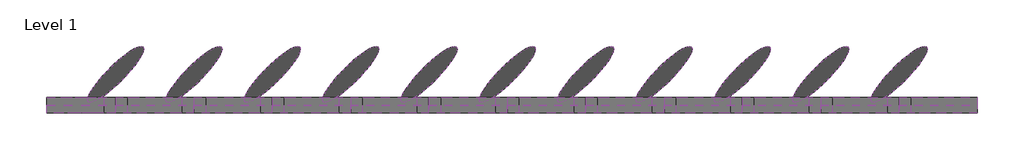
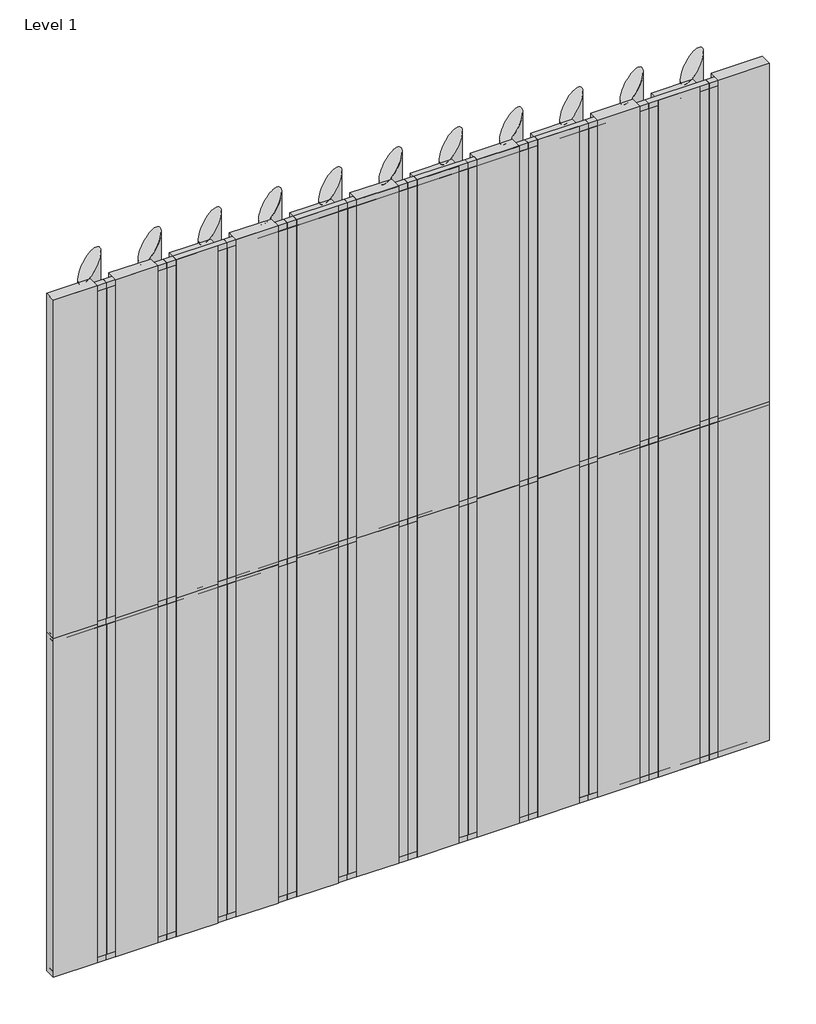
# One storey: 58 members, 48 plates.
"""IFC4 building model written with IfcOpenShell, lengths in millimetres."""

from ifc_helpers import new_model, si_unit, origin, place, context, project, spatial, transform, mapped, element, save
from components import rectangular_mullion_b4513789, rectangular_mullion_4d54ce13, rectangular_mullion_fc1c4b0a, rectangular_mullion_a2429558, rectangular_mullion_4e96f492, rectangular_mullion_058744f8, rectangular_mullion_f7ae43f3, empty_system_panel_empty_92263b80, empty_system_panel_empty_88756bee, empty_system_panel_empty_f5e541b1, empty_system_panel_empty_f6668541, empty_system_panel_empty_c7db59ba

model = new_model("IFC4")

# Units and contexts
model_context = context("Model", 3, world=origin())
ifc_project = project(units=[si_unit("LENGTHUNIT", "METRE", prefix="MILLI")], contexts=[model_context])

# Site, building, storey
site = spatial("IfcSite", under=ifc_project)
building = spatial("IfcBuilding", under=site)
storey = spatial("IfcBuildingStorey", under=building, Name="Level 1", Elevation=0.0)

# Members
placement = place(None, origin())
rectangular_mullion_shape = rectangular_mullion_b4513789(model_context)
element("IfcMember", 1, ObjectType="Rectangular Mullion : RSen_21_CWM_blade - wing 500 - 45° perforated_gen_duco projects", at=placement, inside=storey, context=model_context, shape_type="MappedRepresentation", body=[
    mapped(rectangular_mullion_shape, transform((5495.0, 3000.0, 0.0), x_axis=(-1.0, 0.0, 0.0), y_axis=(0.0, 1.0, 0.0), z_axis=(0.0, 0.0, -1.0))),
])
element("IfcMember", 2, ObjectType="Rectangular Mullion : RSen_21_CWM_blade - wing 500 - 45° perforated_gen_duco projects", at=placement, inside=storey, context=model_context, shape_type="MappedRepresentation", body=[
    mapped(rectangular_mullion_shape, transform((4990.0, 3000.0, 0.0), x_axis=(-1.0, 0.0, 0.0), y_axis=(0.0, 1.0, 0.0), z_axis=(0.0, 0.0, -1.0))),
])
element("IfcMember", 3, ObjectType="Rectangular Mullion : RSen_21_CWM_blade - wing 500 - 45° perforated_gen_duco projects", at=placement, inside=storey, context=model_context, shape_type="MappedRepresentation", body=[
    mapped(rectangular_mullion_shape, transform((4485.0, 3000.0, 0.0), x_axis=(-1.0, 0.0, 0.0), y_axis=(0.0, 1.0, 0.0), z_axis=(0.0, 0.0, -1.0))),
])
element("IfcMember", 4, ObjectType="Rectangular Mullion : RSen_21_CWM_blade - wing 500 - 45° perforated_gen_duco projects", at=placement, inside=storey, context=model_context, shape_type="MappedRepresentation", body=[
    mapped(rectangular_mullion_shape, transform((3980.0, 3000.0, 0.0), x_axis=(-1.0, 0.0, 0.0), y_axis=(0.0, 1.0, 0.0), z_axis=(0.0, 0.0, -1.0))),
])
element("IfcMember", 5, ObjectType="Rectangular Mullion : RSen_21_CWM_blade - wing 500 - 45° perforated_gen_duco projects", at=placement, inside=storey, context=model_context, shape_type="MappedRepresentation", body=[
    mapped(rectangular_mullion_shape, transform((3475.0, 3000.0, 0.0), x_axis=(-1.0, 0.0, 0.0), y_axis=(0.0, 1.0, 0.0), z_axis=(0.0, 0.0, -1.0))),
])
element("IfcMember", 6, ObjectType="Rectangular Mullion : RSen_21_CWM_blade - wing 500 - 45° perforated_gen_duco projects", at=placement, inside=storey, context=model_context, shape_type="MappedRepresentation", body=[
    mapped(rectangular_mullion_shape, transform((2970.0, 3000.0, 0.0), x_axis=(-1.0, 0.0, 0.0), y_axis=(0.0, 1.0, 0.0), z_axis=(0.0, 0.0, -1.0))),
])
element("IfcMember", 7, ObjectType="Rectangular Mullion : RSen_21_CWM_blade - wing 500 - 45° perforated_gen_duco projects", at=placement, inside=storey, context=model_context, shape_type="MappedRepresentation", body=[
    mapped(rectangular_mullion_shape, transform((2465.0, 3000.0, 0.0), x_axis=(-1.0, 0.0, 0.0), y_axis=(0.0, 1.0, 0.0), z_axis=(0.0, 0.0, -1.0))),
])
element("IfcMember", 8, ObjectType="Rectangular Mullion : RSen_21_CWM_blade - wing 500 - 45° perforated_gen_duco projects", at=placement, inside=storey, context=model_context, shape_type="MappedRepresentation", body=[
    mapped(rectangular_mullion_shape, transform((1960.0, 3000.0, 0.0), x_axis=(-1.0, 0.0, 0.0), y_axis=(0.0, 1.0, 0.0), z_axis=(0.0, 0.0, -1.0))),
])
element("IfcMember", 9, ObjectType="Rectangular Mullion : RSen_21_CWM_blade - wing 500 - 45° perforated_gen_duco projects", at=placement, inside=storey, context=model_context, shape_type="MappedRepresentation", body=[
    mapped(rectangular_mullion_shape, transform((1455.0, 3000.0, 0.0), x_axis=(-1.0, 0.0, 0.0), y_axis=(0.0, 1.0, 0.0), z_axis=(0.0, 0.0, -1.0))),
])
element("IfcMember", 10, ObjectType="Rectangular Mullion : RSen_21_CWM_blade - wing 500 - 45° perforated_gen_duco projects", at=placement, inside=storey, context=model_context, shape_type="MappedRepresentation", body=[
    mapped(rectangular_mullion_shape, transform((950.0, 3000.0, 0.0), x_axis=(-1.0, 0.0, 0.0), y_axis=(0.0, 1.0, 0.0), z_axis=(0.0, 0.0, -1.0))),
])
element("IfcMember", 11, ObjectType="Rectangular Mullion : RSen_21_CWM_blade - wing 500 - 45° perforated_gen_duco projects", at=placement, inside=storey, context=model_context, shape_type="MappedRepresentation", body=[
    mapped(rectangular_mullion_shape, transform((445.0, 3000.0, 0.0), x_axis=(-1.0, 0.0, 0.0), y_axis=(0.0, 1.0, 0.0), z_axis=(0.0, 0.0, -1.0))),
])
element("IfcMember", 12, ObjectType="Rectangular Mullion : RSen_21_CWM_blade - wing 500 - 45° perforated_gen_duco projects", at=placement, inside=storey, context=model_context, shape_type="MappedRepresentation", body=[
    mapped(rectangular_mullion_shape, transform((5495.0, 3000.0, 3000.0), x_axis=(-1.0, 0.0, 0.0), y_axis=(0.0, 1.0, 0.0), z_axis=(0.0, 0.0, -1.0))),
])
element("IfcMember", 13, ObjectType="Rectangular Mullion : RSen_21_CWM_blade - wing 500 - 45° perforated_gen_duco projects", at=placement, inside=storey, context=model_context, shape_type="MappedRepresentation", body=[
    mapped(rectangular_mullion_shape, transform((4990.0, 3000.0, 3000.0), x_axis=(-1.0, 0.0, 0.0), y_axis=(0.0, 1.0, 0.0), z_axis=(0.0, 0.0, -1.0))),
])
element("IfcMember", 14, ObjectType="Rectangular Mullion : RSen_21_CWM_blade - wing 500 - 45° perforated_gen_duco projects", at=placement, inside=storey, context=model_context, shape_type="MappedRepresentation", body=[
    mapped(rectangular_mullion_shape, transform((4485.0, 3000.0, 3000.0), x_axis=(-1.0, 0.0, 0.0), y_axis=(0.0, 1.0, 0.0), z_axis=(0.0, 0.0, -1.0))),
])
element("IfcMember", 15, ObjectType="Rectangular Mullion : RSen_21_CWM_blade - wing 500 - 45° perforated_gen_duco projects", at=placement, inside=storey, context=model_context, shape_type="MappedRepresentation", body=[
    mapped(rectangular_mullion_shape, transform((3980.0, 3000.0, 3000.0), x_axis=(-1.0, 0.0, 0.0), y_axis=(0.0, 1.0, 0.0), z_axis=(0.0, 0.0, -1.0))),
])
element("IfcMember", 16, ObjectType="Rectangular Mullion : RSen_21_CWM_blade - wing 500 - 45° perforated_gen_duco projects", at=placement, inside=storey, context=model_context, shape_type="MappedRepresentation", body=[
    mapped(rectangular_mullion_shape, transform((3475.0, 3000.0, 3000.0), x_axis=(-1.0, 0.0, 0.0), y_axis=(0.0, 1.0, 0.0), z_axis=(0.0, 0.0, -1.0))),
])
element("IfcMember", 17, ObjectType="Rectangular Mullion : RSen_21_CWM_blade - wing 500 - 45° perforated_gen_duco projects", at=placement, inside=storey, context=model_context, shape_type="MappedRepresentation", body=[
    mapped(rectangular_mullion_shape, transform((2970.0, 3000.0, 3000.0), x_axis=(-1.0, 0.0, 0.0), y_axis=(0.0, 1.0, 0.0), z_axis=(0.0, 0.0, -1.0))),
])
element("IfcMember", 18, ObjectType="Rectangular Mullion : RSen_21_CWM_blade - wing 500 - 45° perforated_gen_duco projects", at=placement, inside=storey, context=model_context, shape_type="MappedRepresentation", body=[
    mapped(rectangular_mullion_shape, transform((2465.0, 3000.0, 3000.0), x_axis=(-1.0, 0.0, 0.0), y_axis=(0.0, 1.0, 0.0), z_axis=(0.0, 0.0, -1.0))),
])
element("IfcMember", 19, ObjectType="Rectangular Mullion : RSen_21_CWM_blade - wing 500 - 45° perforated_gen_duco projects", at=placement, inside=storey, context=model_context, shape_type="MappedRepresentation", body=[
    mapped(rectangular_mullion_shape, transform((1960.0, 3000.0, 3000.0), x_axis=(-1.0, 0.0, 0.0), y_axis=(0.0, 1.0, 0.0), z_axis=(0.0, 0.0, -1.0))),
])
element("IfcMember", 20, ObjectType="Rectangular Mullion : RSen_21_CWM_blade - wing 500 - 45° perforated_gen_duco projects", at=placement, inside=storey, context=model_context, shape_type="MappedRepresentation", body=[
    mapped(rectangular_mullion_shape, transform((1455.0, 3000.0, 3000.0), x_axis=(-1.0, 0.0, 0.0), y_axis=(0.0, 1.0, 0.0), z_axis=(0.0, 0.0, -1.0))),
])
element("IfcMember", 21, ObjectType="Rectangular Mullion : RSen_21_CWM_blade - wing 500 - 45° perforated_gen_duco projects", at=placement, inside=storey, context=model_context, shape_type="MappedRepresentation", body=[
    mapped(rectangular_mullion_shape, transform((950.0, 3000.0, 3000.0), x_axis=(-1.0, 0.0, 0.0), y_axis=(0.0, 1.0, 0.0), z_axis=(0.0, 0.0, -1.0))),
])
element("IfcMember", 22, ObjectType="Rectangular Mullion : RSen_21_CWM_blade - wing 500 - 45° perforated_gen_duco projects", at=placement, inside=storey, context=model_context, shape_type="MappedRepresentation", body=[
    mapped(rectangular_mullion_shape, transform((445.0, 3000.0, 3000.0), x_axis=(-1.0, 0.0, 0.0), y_axis=(0.0, 1.0, 0.0), z_axis=(0.0, 0.0, -1.0))),
])
rectangular_mullion_2_shape = rectangular_mullion_4d54ce13(model_context)
element("IfcMember", 23, ObjectType="Rectangular Mullion : RSen_21_CWM_support profile 50x50 - left_gen_duco projects", at=placement, inside=storey, context=model_context, shape_type="MappedRepresentation", body=[
    mapped(rectangular_mullion_2_shape, transform((0.0, 3000.0, 6000.0), x_axis=(0.0, 0.0, 1.0), y_axis=(0.0, 1.0, 0.0), z_axis=(-1.0, 0.0, 0.0))),
])
rectangular_mullion_3_shape = rectangular_mullion_fc1c4b0a(model_context)
element("IfcMember", 24, ObjectType="Rectangular Mullion : RSen_21_CWM_support profile 50x50 - right_gen_duco projects", at=placement, inside=storey, context=model_context, shape_type="MappedRepresentation", body=[
    mapped(rectangular_mullion_3_shape, transform((6000.0, 3000.0, 0.0), x_axis=(0.0, 0.0, -1.0), y_axis=(0.0, 1.0, 0.0), z_axis=(1.0, 0.0, 0.0))),
])
rectangular_mullion_4_shape = rectangular_mullion_a2429558(model_context)
element("IfcMember", 25, ObjectType="Rectangular Mullion : RSen_21_CWM_support profile 50x50 - left_gen_duco projects", at=placement, inside=storey, context=model_context, shape_type="MappedRepresentation", body=[
    mapped(rectangular_mullion_4_shape, transform((5495.0, 3000.0, 6000.0), x_axis=(0.0, 0.0, 1.0), y_axis=(0.0, 1.0, 0.0), z_axis=(-1.0, 0.0, 0.0))),
])
element("IfcMember", 26, ObjectType="Rectangular Mullion : RSen_21_CWM_support profile 50x50 - left_gen_duco projects", at=placement, inside=storey, context=model_context, shape_type="MappedRepresentation", body=[
    mapped(rectangular_mullion_4_shape, transform((4990.0, 3000.0, 6000.0), x_axis=(0.0, 0.0, 1.0), y_axis=(0.0, 1.0, 0.0), z_axis=(-1.0, 0.0, 0.0))),
])
element("IfcMember", 27, ObjectType="Rectangular Mullion : RSen_21_CWM_support profile 50x50 - left_gen_duco projects", at=placement, inside=storey, context=model_context, shape_type="MappedRepresentation", body=[
    mapped(rectangular_mullion_4_shape, transform((4485.0, 3000.0, 6000.0), x_axis=(0.0, 0.0, 1.0), y_axis=(0.0, 1.0, 0.0), z_axis=(-1.0, 0.0, 0.0))),
])
element("IfcMember", 28, ObjectType="Rectangular Mullion : RSen_21_CWM_support profile 50x50 - left_gen_duco projects", at=placement, inside=storey, context=model_context, shape_type="MappedRepresentation", body=[
    mapped(rectangular_mullion_4_shape, transform((3980.0, 3000.0, 6000.0), x_axis=(0.0, 0.0, 1.0), y_axis=(0.0, 1.0, 0.0), z_axis=(-1.0, 0.0, 0.0))),
])
element("IfcMember", 29, ObjectType="Rectangular Mullion : RSen_21_CWM_support profile 50x50 - left_gen_duco projects", at=placement, inside=storey, context=model_context, shape_type="MappedRepresentation", body=[
    mapped(rectangular_mullion_4_shape, transform((3475.0, 3000.0, 6000.0), x_axis=(0.0, 0.0, 1.0), y_axis=(0.0, 1.0, 0.0), z_axis=(-1.0, 0.0, 0.0))),
])
element("IfcMember", 30, ObjectType="Rectangular Mullion : RSen_21_CWM_support profile 50x50 - left_gen_duco projects", at=placement, inside=storey, context=model_context, shape_type="MappedRepresentation", body=[
    mapped(rectangular_mullion_4_shape, transform((2970.0, 3000.0, 6000.0), x_axis=(0.0, 0.0, 1.0), y_axis=(0.0, 1.0, 0.0), z_axis=(-1.0, 0.0, 0.0))),
])
element("IfcMember", 31, ObjectType="Rectangular Mullion : RSen_21_CWM_support profile 50x50 - left_gen_duco projects", at=placement, inside=storey, context=model_context, shape_type="MappedRepresentation", body=[
    mapped(rectangular_mullion_4_shape, transform((2465.0, 3000.0, 6000.0), x_axis=(0.0, 0.0, 1.0), y_axis=(0.0, 1.0, 0.0), z_axis=(-1.0, 0.0, 0.0))),
])
element("IfcMember", 32, ObjectType="Rectangular Mullion : RSen_21_CWM_support profile 50x50 - left_gen_duco projects", at=placement, inside=storey, context=model_context, shape_type="MappedRepresentation", body=[
    mapped(rectangular_mullion_4_shape, transform((1960.0, 3000.0, 6000.0), x_axis=(0.0, 0.0, 1.0), y_axis=(0.0, 1.0, 0.0), z_axis=(-1.0, 0.0, 0.0))),
])
element("IfcMember", 33, ObjectType="Rectangular Mullion : RSen_21_CWM_support profile 50x50 - left_gen_duco projects", at=placement, inside=storey, context=model_context, shape_type="MappedRepresentation", body=[
    mapped(rectangular_mullion_4_shape, transform((1455.0, 3000.0, 6000.0), x_axis=(0.0, 0.0, 1.0), y_axis=(0.0, 1.0, 0.0), z_axis=(-1.0, 0.0, 0.0))),
])
element("IfcMember", 34, ObjectType="Rectangular Mullion : RSen_21_CWM_support profile 50x50 - left_gen_duco projects", at=placement, inside=storey, context=model_context, shape_type="MappedRepresentation", body=[
    mapped(rectangular_mullion_4_shape, transform((950.0, 3000.0, 6000.0), x_axis=(0.0, 0.0, 1.0), y_axis=(0.0, 1.0, 0.0), z_axis=(-1.0, 0.0, 0.0))),
])
element("IfcMember", 35, ObjectType="Rectangular Mullion : RSen_21_CWM_support profile 50x50 - left_gen_duco projects", at=placement, inside=storey, context=model_context, shape_type="MappedRepresentation", body=[
    mapped(rectangular_mullion_4_shape, transform((445.0, 3000.0, 6000.0), x_axis=(0.0, 0.0, 1.0), y_axis=(0.0, 1.0, 0.0), z_axis=(-1.0, 0.0, 0.0))),
])
element("IfcMember", 36, ObjectType="Rectangular Mullion : RSen_21_CWM_support profile 50x50 - right_gen_duco projects", at=placement, inside=storey, context=model_context, shape_type="MappedRepresentation", body=[
    mapped(rectangular_mullion_3_shape, transform((5495.0, 3000.0, 0.0), x_axis=(0.0, 0.0, -1.0), y_axis=(0.0, 1.0, 0.0), z_axis=(1.0, 0.0, 0.0))),
])
element("IfcMember", 37, ObjectType="Rectangular Mullion : RSen_21_CWM_support profile 50x50 - right_gen_duco projects", at=placement, inside=storey, context=model_context, shape_type="MappedRepresentation", body=[
    mapped(rectangular_mullion_3_shape, transform((4990.0, 3000.0, 0.0), x_axis=(0.0, 0.0, -1.0), y_axis=(0.0, 1.0, 0.0), z_axis=(1.0, 0.0, 0.0))),
])
element("IfcMember", 38, ObjectType="Rectangular Mullion : RSen_21_CWM_support profile 50x50 - right_gen_duco projects", at=placement, inside=storey, context=model_context, shape_type="MappedRepresentation", body=[
    mapped(rectangular_mullion_3_shape, transform((4485.0, 3000.0, 0.0), x_axis=(0.0, 0.0, -1.0), y_axis=(0.0, 1.0, 0.0), z_axis=(1.0, 0.0, 0.0))),
])
element("IfcMember", 39, ObjectType="Rectangular Mullion : RSen_21_CWM_support profile 50x50 - right_gen_duco projects", at=placement, inside=storey, context=model_context, shape_type="MappedRepresentation", body=[
    mapped(rectangular_mullion_3_shape, transform((3980.0, 3000.0, 0.0), x_axis=(0.0, 0.0, -1.0), y_axis=(0.0, 1.0, 0.0), z_axis=(1.0, 0.0, 0.0))),
])
element("IfcMember", 40, ObjectType="Rectangular Mullion : RSen_21_CWM_support profile 50x50 - right_gen_duco projects", at=placement, inside=storey, context=model_context, shape_type="MappedRepresentation", body=[
    mapped(rectangular_mullion_3_shape, transform((3475.0, 3000.0, 0.0), x_axis=(0.0, 0.0, -1.0), y_axis=(0.0, 1.0, 0.0), z_axis=(1.0, 0.0, 0.0))),
])
element("IfcMember", 41, ObjectType="Rectangular Mullion : RSen_21_CWM_support profile 50x50 - right_gen_duco projects", at=placement, inside=storey, context=model_context, shape_type="MappedRepresentation", body=[
    mapped(rectangular_mullion_3_shape, transform((2970.0, 3000.0, 0.0), x_axis=(0.0, 0.0, -1.0), y_axis=(0.0, 1.0, 0.0), z_axis=(1.0, 0.0, 0.0))),
])
element("IfcMember", 42, ObjectType="Rectangular Mullion : RSen_21_CWM_support profile 50x50 - right_gen_duco projects", at=placement, inside=storey, context=model_context, shape_type="MappedRepresentation", body=[
    mapped(rectangular_mullion_3_shape, transform((2465.0, 3000.0, 0.0), x_axis=(0.0, 0.0, -1.0), y_axis=(0.0, 1.0, 0.0), z_axis=(1.0, 0.0, 0.0))),
])
element("IfcMember", 43, ObjectType="Rectangular Mullion : RSen_21_CWM_support profile 50x50 - right_gen_duco projects", at=placement, inside=storey, context=model_context, shape_type="MappedRepresentation", body=[
    mapped(rectangular_mullion_3_shape, transform((1960.0, 3000.0, 0.0), x_axis=(0.0, 0.0, -1.0), y_axis=(0.0, 1.0, 0.0), z_axis=(1.0, 0.0, 0.0))),
])
element("IfcMember", 44, ObjectType="Rectangular Mullion : RSen_21_CWM_support profile 50x50 - right_gen_duco projects", at=placement, inside=storey, context=model_context, shape_type="MappedRepresentation", body=[
    mapped(rectangular_mullion_3_shape, transform((1455.0, 3000.0, 0.0), x_axis=(0.0, 0.0, -1.0), y_axis=(0.0, 1.0, 0.0), z_axis=(1.0, 0.0, 0.0))),
])
element("IfcMember", 45, ObjectType="Rectangular Mullion : RSen_21_CWM_support profile 50x50 - right_gen_duco projects", at=placement, inside=storey, context=model_context, shape_type="MappedRepresentation", body=[
    mapped(rectangular_mullion_3_shape, transform((950.0, 3000.0, 0.0), x_axis=(0.0, 0.0, -1.0), y_axis=(0.0, 1.0, 0.0), z_axis=(1.0, 0.0, 0.0))),
])
rectangular_mullion_5_shape = rectangular_mullion_4e96f492(model_context)
element("IfcMember", 46, ObjectType="Rectangular Mullion : RSen_21_CWM_support profile 50x50 - right_gen_duco projects", at=placement, inside=storey, context=model_context, shape_type="MappedRepresentation", body=[
    mapped(rectangular_mullion_5_shape, transform((445.0, 3000.0, 0.0), x_axis=(0.0, 0.0, -1.0), y_axis=(0.0, 1.0, 0.0), z_axis=(1.0, 0.0, 0.0))),
])
rectangular_mullion_6_shape = rectangular_mullion_058744f8(model_context)
element("IfcMember", 47, ObjectType="Rectangular Mullion : RSen_21_CWM_support profile 50x50_gen_duco projects", at=placement, inside=storey, context=model_context, shape_type="MappedRepresentation", body=[
    mapped(rectangular_mullion_6_shape, transform((5495.0, 3000.0, 3000.0), x_axis=(0.0, 0.0, 1.0), y_axis=(0.0, 1.0, 0.0), z_axis=(-1.0, 0.0, 0.0))),
])
element("IfcMember", 48, ObjectType="Rectangular Mullion : RSen_21_CWM_support profile 50x50_gen_duco projects", at=placement, inside=storey, context=model_context, shape_type="MappedRepresentation", body=[
    mapped(rectangular_mullion_6_shape, transform((4990.0, 3000.0, 3000.0), x_axis=(0.0, 0.0, 1.0), y_axis=(0.0, 1.0, 0.0), z_axis=(-1.0, 0.0, 0.0))),
])
element("IfcMember", 49, ObjectType="Rectangular Mullion : RSen_21_CWM_support profile 50x50_gen_duco projects", at=placement, inside=storey, context=model_context, shape_type="MappedRepresentation", body=[
    mapped(rectangular_mullion_6_shape, transform((4485.0, 3000.0, 3000.0), x_axis=(0.0, 0.0, 1.0), y_axis=(0.0, 1.0, 0.0), z_axis=(-1.0, 0.0, 0.0))),
])
element("IfcMember", 50, ObjectType="Rectangular Mullion : RSen_21_CWM_support profile 50x50_gen_duco projects", at=placement, inside=storey, context=model_context, shape_type="MappedRepresentation", body=[
    mapped(rectangular_mullion_6_shape, transform((3980.0, 3000.0, 3000.0), x_axis=(0.0, 0.0, 1.0), y_axis=(0.0, 1.0, 0.0), z_axis=(-1.0, 0.0, 0.0))),
])
element("IfcMember", 51, ObjectType="Rectangular Mullion : RSen_21_CWM_support profile 50x50_gen_duco projects", at=placement, inside=storey, context=model_context, shape_type="MappedRepresentation", body=[
    mapped(rectangular_mullion_6_shape, transform((3475.0, 3000.0, 3000.0), x_axis=(0.0, 0.0, 1.0), y_axis=(0.0, 1.0, 0.0), z_axis=(-1.0, 0.0, 0.0))),
])
element("IfcMember", 52, ObjectType="Rectangular Mullion : RSen_21_CWM_support profile 50x50_gen_duco projects", at=placement, inside=storey, context=model_context, shape_type="MappedRepresentation", body=[
    mapped(rectangular_mullion_6_shape, transform((2970.0, 3000.0, 3000.0), x_axis=(0.0, 0.0, 1.0), y_axis=(0.0, 1.0, 0.0), z_axis=(-1.0, 0.0, 0.0))),
])
element("IfcMember", 53, ObjectType="Rectangular Mullion : RSen_21_CWM_support profile 50x50_gen_duco projects", at=placement, inside=storey, context=model_context, shape_type="MappedRepresentation", body=[
    mapped(rectangular_mullion_6_shape, transform((2465.0, 3000.0, 3000.0), x_axis=(0.0, 0.0, 1.0), y_axis=(0.0, 1.0, 0.0), z_axis=(-1.0, 0.0, 0.0))),
])
element("IfcMember", 54, ObjectType="Rectangular Mullion : RSen_21_CWM_support profile 50x50_gen_duco projects", at=placement, inside=storey, context=model_context, shape_type="MappedRepresentation", body=[
    mapped(rectangular_mullion_6_shape, transform((1960.0, 3000.0, 3000.0), x_axis=(0.0, 0.0, 1.0), y_axis=(0.0, 1.0, 0.0), z_axis=(-1.0, 0.0, 0.0))),
])
element("IfcMember", 55, ObjectType="Rectangular Mullion : RSen_21_CWM_support profile 50x50_gen_duco projects", at=placement, inside=storey, context=model_context, shape_type="MappedRepresentation", body=[
    mapped(rectangular_mullion_6_shape, transform((1455.0, 3000.0, 3000.0), x_axis=(0.0, 0.0, 1.0), y_axis=(0.0, 1.0, 0.0), z_axis=(-1.0, 0.0, 0.0))),
])
element("IfcMember", 56, ObjectType="Rectangular Mullion : RSen_21_CWM_support profile 50x50_gen_duco projects", at=placement, inside=storey, context=model_context, shape_type="MappedRepresentation", body=[
    mapped(rectangular_mullion_6_shape, transform((950.0, 3000.0, 3000.0), x_axis=(0.0, 0.0, 1.0), y_axis=(0.0, 1.0, 0.0), z_axis=(-1.0, 0.0, 0.0))),
])
element("IfcMember", 57, ObjectType="Rectangular Mullion : RSen_21_CWM_support profile 50x50_gen_duco projects", at=placement, inside=storey, context=model_context, shape_type="MappedRepresentation", body=[
    mapped(rectangular_mullion_6_shape, transform((445.0, 3000.0, 3000.0), x_axis=(0.0, 0.0, 1.0), y_axis=(0.0, 1.0, 0.0), z_axis=(-1.0, 0.0, 0.0))),
])
rectangular_mullion_7_shape = rectangular_mullion_f7ae43f3(model_context)
element("IfcMember", 58, ObjectType="Rectangular Mullion : RSen_21_CWM_support profile 50x50_gen_duco projects", at=placement, inside=storey, context=model_context, shape_type="MappedRepresentation", body=[
    mapped(rectangular_mullion_7_shape, transform((0.0, 3000.0, 3000.0), x_axis=(0.0, 0.0, 1.0), y_axis=(0.0, 1.0, 0.0), z_axis=(-1.0, 0.0, 0.0))),
])

# Plates
empty_system_panel_empty_shape = empty_system_panel_empty_92263b80(model_context)
element("IfcPlate", 59, ObjectType="Empty System Panel : Empty", at=placement, inside=storey, context=model_context, shape_type="MappedRepresentation", body=[
    mapped(empty_system_panel_empty_shape, transform((5786.390873, 3000.0, 0.0), x_axis=(-1.0, 0.0, 0.0), y_axis=(0.0, -1.0, 0.0), z_axis=(0.0, 0.0, 1.0))),
])
element("IfcPlate", 60, ObjectType="Empty System Panel : Empty", at=placement, inside=storey, context=model_context, shape_type="MappedRepresentation", body=[
    mapped(empty_system_panel_empty_shape, transform((5786.390873, 3000.0, 3000.0), x_axis=(-1.0, 0.0, 0.0), y_axis=(0.0, -1.0, 0.0), z_axis=(0.0, 0.0, 1.0))),
])
empty_system_panel_empty_2_shape = empty_system_panel_empty_88756bee(model_context)
element("IfcPlate", 61, ObjectType="Empty System Panel : Empty", at=placement, inside=storey, context=model_context, shape_type="MappedRepresentation", body=[
    mapped(empty_system_panel_empty_2_shape, transform((5242.5, 3000.0, 0.0), x_axis=(-1.0, 0.0, 0.0), y_axis=(0.0, -1.0, 0.0), z_axis=(0.0, 0.0, 1.0))),
])
element("IfcPlate", 62, ObjectType="Empty System Panel : Empty", at=placement, inside=storey, context=model_context, shape_type="MappedRepresentation", body=[
    mapped(empty_system_panel_empty_2_shape, transform((4737.5, 3000.0, 0.0), x_axis=(-1.0, 0.0, 0.0), y_axis=(0.0, -1.0, 0.0), z_axis=(0.0, 0.0, 1.0))),
])
element("IfcPlate", 63, ObjectType="Empty System Panel : Empty", at=placement, inside=storey, context=model_context, shape_type="MappedRepresentation", body=[
    mapped(empty_system_panel_empty_2_shape, transform((4232.5, 3000.0, 0.0), x_axis=(-1.0, 0.0, 0.0), y_axis=(0.0, -1.0, 0.0), z_axis=(0.0, 0.0, 1.0))),
])
element("IfcPlate", 64, ObjectType="Empty System Panel : Empty", at=placement, inside=storey, context=model_context, shape_type="MappedRepresentation", body=[
    mapped(empty_system_panel_empty_2_shape, transform((3727.5, 3000.0, 0.0), x_axis=(-1.0, 0.0, 0.0), y_axis=(0.0, -1.0, 0.0), z_axis=(0.0, 0.0, 1.0))),
])
element("IfcPlate", 65, ObjectType="Empty System Panel : Empty", at=placement, inside=storey, context=model_context, shape_type="MappedRepresentation", body=[
    mapped(empty_system_panel_empty_2_shape, transform((3222.5, 3000.0, 0.0), x_axis=(-1.0, 0.0, 0.0), y_axis=(0.0, -1.0, 0.0), z_axis=(0.0, 0.0, 1.0))),
])
element("IfcPlate", 66, ObjectType="Empty System Panel : Empty", at=placement, inside=storey, context=model_context, shape_type="MappedRepresentation", body=[
    mapped(empty_system_panel_empty_2_shape, transform((2717.5, 3000.0, 0.0), x_axis=(-1.0, 0.0, 0.0), y_axis=(0.0, -1.0, 0.0), z_axis=(0.0, 0.0, 1.0))),
])
element("IfcPlate", 67, ObjectType="Empty System Panel : Empty", at=placement, inside=storey, context=model_context, shape_type="MappedRepresentation", body=[
    mapped(empty_system_panel_empty_2_shape, transform((2212.5, 3000.0, 0.0), x_axis=(-1.0, 0.0, 0.0), y_axis=(0.0, -1.0, 0.0), z_axis=(0.0, 0.0, 1.0))),
])
element("IfcPlate", 68, ObjectType="Empty System Panel : Empty", at=placement, inside=storey, context=model_context, shape_type="MappedRepresentation", body=[
    mapped(empty_system_panel_empty_2_shape, transform((1707.5, 3000.0, 0.0), x_axis=(-1.0, 0.0, 0.0), y_axis=(0.0, -1.0, 0.0), z_axis=(0.0, 0.0, 1.0))),
])
element("IfcPlate", 69, ObjectType="Empty System Panel : Empty", at=placement, inside=storey, context=model_context, shape_type="MappedRepresentation", body=[
    mapped(empty_system_panel_empty_2_shape, transform((1202.5, 3000.0, 0.0), x_axis=(-1.0, 0.0, 0.0), y_axis=(0.0, -1.0, 0.0), z_axis=(0.0, 0.0, 1.0))),
])
element("IfcPlate", 70, ObjectType="Empty System Panel : Empty", at=placement, inside=storey, context=model_context, shape_type="MappedRepresentation", body=[
    mapped(empty_system_panel_empty_2_shape, transform((697.5, 3000.0, 0.0), x_axis=(-1.0, 0.0, 0.0), y_axis=(0.0, -1.0, 0.0), z_axis=(0.0, 0.0, 1.0))),
])
element("IfcPlate", 71, ObjectType="Empty System Panel : Empty", at=placement, inside=storey, context=model_context, shape_type="MappedRepresentation", body=[
    mapped(empty_system_panel_empty_2_shape, transform((5242.5, 3000.0, 3000.0), x_axis=(-1.0, 0.0, 0.0), y_axis=(0.0, -1.0, 0.0), z_axis=(0.0, 0.0, 1.0))),
])
element("IfcPlate", 72, ObjectType="Empty System Panel : Empty", at=placement, inside=storey, context=model_context, shape_type="MappedRepresentation", body=[
    mapped(empty_system_panel_empty_2_shape, transform((4737.5, 3000.0, 3000.0), x_axis=(-1.0, 0.0, 0.0), y_axis=(0.0, -1.0, 0.0), z_axis=(0.0, 0.0, 1.0))),
])
element("IfcPlate", 73, ObjectType="Empty System Panel : Empty", at=placement, inside=storey, context=model_context, shape_type="MappedRepresentation", body=[
    mapped(empty_system_panel_empty_2_shape, transform((4232.5, 3000.0, 3000.0), x_axis=(-1.0, 0.0, 0.0), y_axis=(0.0, -1.0, 0.0), z_axis=(0.0, 0.0, 1.0))),
])
element("IfcPlate", 74, ObjectType="Empty System Panel : Empty", at=placement, inside=storey, context=model_context, shape_type="MappedRepresentation", body=[
    mapped(empty_system_panel_empty_2_shape, transform((3727.5, 3000.0, 3000.0), x_axis=(-1.0, 0.0, 0.0), y_axis=(0.0, -1.0, 0.0), z_axis=(0.0, 0.0, 1.0))),
])
element("IfcPlate", 75, ObjectType="Empty System Panel : Empty", at=placement, inside=storey, context=model_context, shape_type="MappedRepresentation", body=[
    mapped(empty_system_panel_empty_2_shape, transform((3222.5, 3000.0, 3000.0), x_axis=(-1.0, 0.0, 0.0), y_axis=(0.0, -1.0, 0.0), z_axis=(0.0, 0.0, 1.0))),
])
element("IfcPlate", 76, ObjectType="Empty System Panel : Empty", at=placement, inside=storey, context=model_context, shape_type="MappedRepresentation", body=[
    mapped(empty_system_panel_empty_2_shape, transform((2717.5, 3000.0, 3000.0), x_axis=(-1.0, 0.0, 0.0), y_axis=(0.0, -1.0, 0.0), z_axis=(0.0, 0.0, 1.0))),
])
element("IfcPlate", 77, ObjectType="Empty System Panel : Empty", at=placement, inside=storey, context=model_context, shape_type="MappedRepresentation", body=[
    mapped(empty_system_panel_empty_2_shape, transform((2212.5, 3000.0, 3000.0), x_axis=(-1.0, 0.0, 0.0), y_axis=(0.0, -1.0, 0.0), z_axis=(0.0, 0.0, 1.0))),
])
element("IfcPlate", 78, ObjectType="Empty System Panel : Empty", at=placement, inside=storey, context=model_context, shape_type="MappedRepresentation", body=[
    mapped(empty_system_panel_empty_2_shape, transform((1707.5, 3000.0, 3000.0), x_axis=(-1.0, 0.0, 0.0), y_axis=(0.0, -1.0, 0.0), z_axis=(0.0, 0.0, 1.0))),
])
element("IfcPlate", 79, ObjectType="Empty System Panel : Empty", at=placement, inside=storey, context=model_context, shape_type="MappedRepresentation", body=[
    mapped(empty_system_panel_empty_2_shape, transform((1202.5, 3000.0, 3000.0), x_axis=(-1.0, 0.0, 0.0), y_axis=(0.0, -1.0, 0.0), z_axis=(0.0, 0.0, 1.0))),
])
element("IfcPlate", 80, ObjectType="Empty System Panel : Empty", at=placement, inside=storey, context=model_context, shape_type="MappedRepresentation", body=[
    mapped(empty_system_panel_empty_2_shape, transform((697.5, 3000.0, 3000.0), x_axis=(-1.0, 0.0, 0.0), y_axis=(0.0, -1.0, 0.0), z_axis=(0.0, 0.0, 1.0))),
])
empty_system_panel_empty_3_shape = empty_system_panel_empty_f5e541b1(model_context)
element("IfcPlate", 81, ObjectType="Empty System Panel : Empty", at=placement, inside=storey, context=model_context, shape_type="MappedRepresentation", body=[
    mapped(empty_system_panel_empty_3_shape, transform((183.609127, 3000.0, 0.0), x_axis=(-1.0, 0.0, 0.0), y_axis=(0.0, -1.0, 0.0), z_axis=(0.0, 0.0, 1.0))),
])
element("IfcPlate", 82, ObjectType="Empty System Panel : Empty", at=placement, inside=storey, context=model_context, shape_type="MappedRepresentation", body=[
    mapped(empty_system_panel_empty_3_shape, transform((183.609127, 3000.0, 3000.0), x_axis=(-1.0, 0.0, 0.0), y_axis=(0.0, -1.0, 0.0), z_axis=(0.0, 0.0, 1.0))),
])
empty_system_panel_empty_4_shape = empty_system_panel_empty_f6668541(model_context)
element("IfcPlate", 83, ObjectType="Empty System Panel : Empty", at=placement, inside=storey, context=model_context, shape_type="MappedRepresentation", body=[
    mapped(empty_system_panel_empty_4_shape, transform((5747.5, 3000.0, 50.0), x_axis=(-1.0, 0.0, 0.0), y_axis=(0.0, -1.0, 0.0), z_axis=(0.0, 0.0, 1.0))),
])
element("IfcPlate", 84, ObjectType="Empty System Panel : Empty", at=placement, inside=storey, context=model_context, shape_type="MappedRepresentation", body=[
    mapped(empty_system_panel_empty_4_shape, transform((5242.5, 3000.0, 50.0), x_axis=(-1.0, 0.0, 0.0), y_axis=(0.0, -1.0, 0.0), z_axis=(0.0, 0.0, 1.0))),
])
element("IfcPlate", 85, ObjectType="Empty System Panel : Empty", at=placement, inside=storey, context=model_context, shape_type="MappedRepresentation", body=[
    mapped(empty_system_panel_empty_4_shape, transform((4737.5, 3000.0, 50.0), x_axis=(-1.0, 0.0, 0.0), y_axis=(0.0, -1.0, 0.0), z_axis=(0.0, 0.0, 1.0))),
])
element("IfcPlate", 86, ObjectType="Empty System Panel : Empty", at=placement, inside=storey, context=model_context, shape_type="MappedRepresentation", body=[
    mapped(empty_system_panel_empty_4_shape, transform((4232.5, 3000.0, 50.0), x_axis=(-1.0, 0.0, 0.0), y_axis=(0.0, -1.0, 0.0), z_axis=(0.0, 0.0, 1.0))),
])
element("IfcPlate", 87, ObjectType="Empty System Panel : Empty", at=placement, inside=storey, context=model_context, shape_type="MappedRepresentation", body=[
    mapped(empty_system_panel_empty_4_shape, transform((3727.5, 3000.0, 50.0), x_axis=(-1.0, 0.0, 0.0), y_axis=(0.0, -1.0, 0.0), z_axis=(0.0, 0.0, 1.0))),
])
element("IfcPlate", 88, ObjectType="Empty System Panel : Empty", at=placement, inside=storey, context=model_context, shape_type="MappedRepresentation", body=[
    mapped(empty_system_panel_empty_4_shape, transform((3222.5, 3000.0, 50.0), x_axis=(-1.0, 0.0, 0.0), y_axis=(0.0, -1.0, 0.0), z_axis=(0.0, 0.0, 1.0))),
])
element("IfcPlate", 89, ObjectType="Empty System Panel : Empty", at=placement, inside=storey, context=model_context, shape_type="MappedRepresentation", body=[
    mapped(empty_system_panel_empty_4_shape, transform((2717.5, 3000.0, 50.0), x_axis=(-1.0, 0.0, 0.0), y_axis=(0.0, -1.0, 0.0), z_axis=(0.0, 0.0, 1.0))),
])
element("IfcPlate", 90, ObjectType="Empty System Panel : Empty", at=placement, inside=storey, context=model_context, shape_type="MappedRepresentation", body=[
    mapped(empty_system_panel_empty_4_shape, transform((2212.5, 3000.0, 50.0), x_axis=(-1.0, 0.0, 0.0), y_axis=(0.0, -1.0, 0.0), z_axis=(0.0, 0.0, 1.0))),
])
element("IfcPlate", 91, ObjectType="Empty System Panel : Empty", at=placement, inside=storey, context=model_context, shape_type="MappedRepresentation", body=[
    mapped(empty_system_panel_empty_4_shape, transform((1707.5, 3000.0, 50.0), x_axis=(-1.0, 0.0, 0.0), y_axis=(0.0, -1.0, 0.0), z_axis=(0.0, 0.0, 1.0))),
])
element("IfcPlate", 92, ObjectType="Empty System Panel : Empty", at=placement, inside=storey, context=model_context, shape_type="MappedRepresentation", body=[
    mapped(empty_system_panel_empty_4_shape, transform((1202.5, 3000.0, 50.0), x_axis=(-1.0, 0.0, 0.0), y_axis=(0.0, -1.0, 0.0), z_axis=(0.0, 0.0, 1.0))),
])
element("IfcPlate", 93, ObjectType="Empty System Panel : Empty", at=placement, inside=storey, context=model_context, shape_type="MappedRepresentation", body=[
    mapped(empty_system_panel_empty_4_shape, transform((697.5, 3000.0, 50.0), x_axis=(-1.0, 0.0, 0.0), y_axis=(0.0, -1.0, 0.0), z_axis=(0.0, 0.0, 1.0))),
])
element("IfcPlate", 94, ObjectType="Empty System Panel : Empty", at=placement, inside=storey, context=model_context, shape_type="MappedRepresentation", body=[
    mapped(empty_system_panel_empty_4_shape, transform((5747.5, 3000.0, 3025.0), x_axis=(-1.0, 0.0, 0.0), y_axis=(0.0, -1.0, 0.0), z_axis=(0.0, 0.0, 1.0))),
])
element("IfcPlate", 95, ObjectType="Empty System Panel : Empty", at=placement, inside=storey, context=model_context, shape_type="MappedRepresentation", body=[
    mapped(empty_system_panel_empty_4_shape, transform((5242.5, 3000.0, 3025.0), x_axis=(-1.0, 0.0, 0.0), y_axis=(0.0, -1.0, 0.0), z_axis=(0.0, 0.0, 1.0))),
])
element("IfcPlate", 96, ObjectType="Empty System Panel : Empty", at=placement, inside=storey, context=model_context, shape_type="MappedRepresentation", body=[
    mapped(empty_system_panel_empty_4_shape, transform((4737.5, 3000.0, 3025.0), x_axis=(-1.0, 0.0, 0.0), y_axis=(0.0, -1.0, 0.0), z_axis=(0.0, 0.0, 1.0))),
])
element("IfcPlate", 97, ObjectType="Empty System Panel : Empty", at=placement, inside=storey, context=model_context, shape_type="MappedRepresentation", body=[
    mapped(empty_system_panel_empty_4_shape, transform((4232.5, 3000.0, 3025.0), x_axis=(-1.0, 0.0, 0.0), y_axis=(0.0, -1.0, 0.0), z_axis=(0.0, 0.0, 1.0))),
])
element("IfcPlate", 98, ObjectType="Empty System Panel : Empty", at=placement, inside=storey, context=model_context, shape_type="MappedRepresentation", body=[
    mapped(empty_system_panel_empty_4_shape, transform((3727.5, 3000.0, 3025.0), x_axis=(-1.0, 0.0, 0.0), y_axis=(0.0, -1.0, 0.0), z_axis=(0.0, 0.0, 1.0))),
])
element("IfcPlate", 99, ObjectType="Empty System Panel : Empty", at=placement, inside=storey, context=model_context, shape_type="MappedRepresentation", body=[
    mapped(empty_system_panel_empty_4_shape, transform((3222.5, 3000.0, 3025.0), x_axis=(-1.0, 0.0, 0.0), y_axis=(0.0, -1.0, 0.0), z_axis=(0.0, 0.0, 1.0))),
])
element("IfcPlate", 100, ObjectType="Empty System Panel : Empty", at=placement, inside=storey, context=model_context, shape_type="MappedRepresentation", body=[
    mapped(empty_system_panel_empty_4_shape, transform((2717.5, 3000.0, 3025.0), x_axis=(-1.0, 0.0, 0.0), y_axis=(0.0, -1.0, 0.0), z_axis=(0.0, 0.0, 1.0))),
])
element("IfcPlate", 101, ObjectType="Empty System Panel : Empty", at=placement, inside=storey, context=model_context, shape_type="MappedRepresentation", body=[
    mapped(empty_system_panel_empty_4_shape, transform((2212.5, 3000.0, 3025.0), x_axis=(-1.0, 0.0, 0.0), y_axis=(0.0, -1.0, 0.0), z_axis=(0.0, 0.0, 1.0))),
])
element("IfcPlate", 102, ObjectType="Empty System Panel : Empty", at=placement, inside=storey, context=model_context, shape_type="MappedRepresentation", body=[
    mapped(empty_system_panel_empty_4_shape, transform((1707.5, 3000.0, 3025.0), x_axis=(-1.0, 0.0, 0.0), y_axis=(0.0, -1.0, 0.0), z_axis=(0.0, 0.0, 1.0))),
])
element("IfcPlate", 103, ObjectType="Empty System Panel : Empty", at=placement, inside=storey, context=model_context, shape_type="MappedRepresentation", body=[
    mapped(empty_system_panel_empty_4_shape, transform((1202.5, 3000.0, 3025.0), x_axis=(-1.0, 0.0, 0.0), y_axis=(0.0, -1.0, 0.0), z_axis=(0.0, 0.0, 1.0))),
])
element("IfcPlate", 104, ObjectType="Empty System Panel : Empty", at=placement, inside=storey, context=model_context, shape_type="MappedRepresentation", body=[
    mapped(empty_system_panel_empty_4_shape, transform((697.5, 3000.0, 3025.0), x_axis=(-1.0, 0.0, 0.0), y_axis=(0.0, -1.0, 0.0), z_axis=(0.0, 0.0, 1.0))),
])
empty_system_panel_empty_5_shape = empty_system_panel_empty_c7db59ba(model_context)
element("IfcPlate", 105, ObjectType="Empty System Panel : Empty", at=placement, inside=storey, context=model_context, shape_type="MappedRepresentation", body=[
    mapped(empty_system_panel_empty_5_shape, transform((222.5, 3000.0, 50.0), x_axis=(-1.0, 0.0, 0.0), y_axis=(0.0, -1.0, 0.0), z_axis=(0.0, 0.0, 1.0))),
])
element("IfcPlate", 106, ObjectType="Empty System Panel : Empty", at=placement, inside=storey, context=model_context, shape_type="MappedRepresentation", body=[
    mapped(empty_system_panel_empty_5_shape, transform((222.5, 3000.0, 3025.0), x_axis=(-1.0, 0.0, 0.0), y_axis=(0.0, -1.0, 0.0), z_axis=(0.0, 0.0, 1.0))),
])

save(model, "model.ifc")
